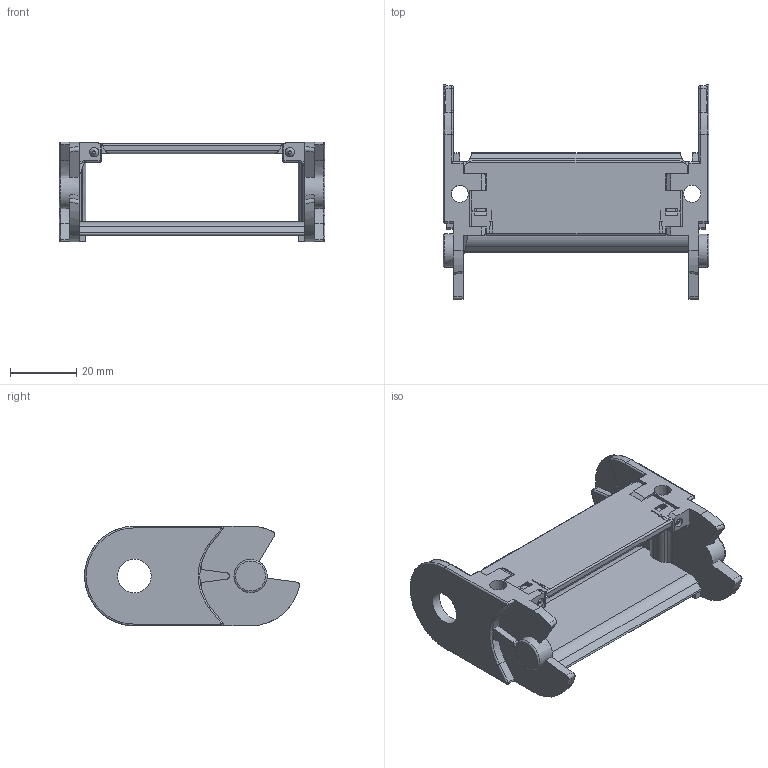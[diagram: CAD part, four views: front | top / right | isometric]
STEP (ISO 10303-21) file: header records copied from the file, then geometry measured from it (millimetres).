
FILE_DESCRIPTION((''),'2;1');
FILE_NAME('C:\Uebbing\PARAMETERKETTEN\KOLIBRI\Kol_30_080_2\Kol_30_080_2_Glied.stp','2011-11-02T12:18:05',('Uebbing'),(''),'Autodesk Inventor 10','Autodesk Inventor 10','');
FILE_SCHEMA(('AUTOMOTIVE_DESIGN { 1 0 10303 214 1 1 1 1 }'));
Length unit declared in the file: millimetre
Products named in the file (3): Kol_30_080_2_Glied; Kol 30_080_2_ Lasche; Kol 30_080_0 Klappsteg
Assembly tree (2 placements, depth 2):
  Kol_30_080_2_Glied
    Kol 30_080_2_ Lasche
    Kol 30_080_0 Klappsteg
Bounding box: 80 x 64.71 x 30 mm (x, y, z)
Volume: 22022.3 mm3; surface area: 17880.7 mm2
Topology: 2 solids, 2 shells, 961 faces, 2607 edges, 1714 vertices
Faces by surface type: plane 490, bspline 269, cylinder 182, torus 13, cone 4, sphere 3
Full cylindrical faces by diameter (mm): 1.166 x1, 2.048 x1, 2.8 x6, 5.1 x1, 10 x1, 10.1 x1
Entity records: 33111 total; most frequent: CARTESIAN_POINT 10035, ORIENTED_EDGE 5132, DIRECTION 4137, EDGE_CURVE 2566, VERTEX_POINT 1701, VECTOR 1693, LINE 1693, AXIS2_PLACEMENT_3D 1222
